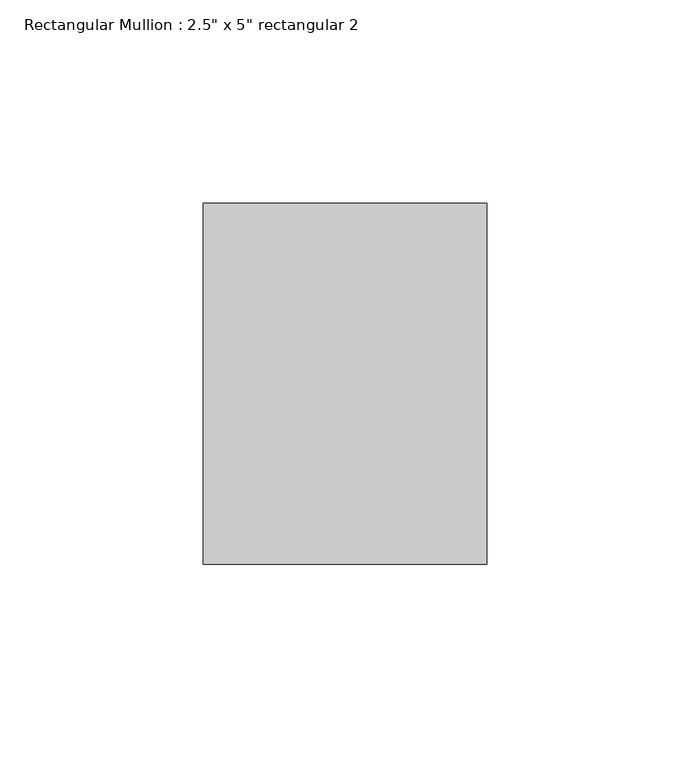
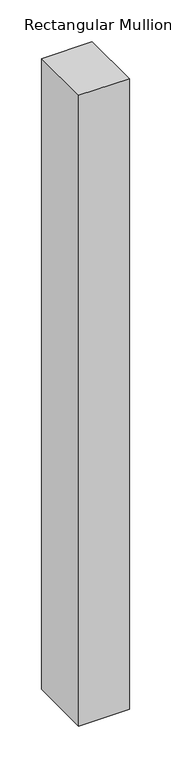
"""IFC4 building model written with IfcOpenShell, lengths in millimetres: member geometry."""

from ifc_helpers import new_model, si_unit, frame, origin, place, context, project, spatial, polyline, outline, extrude, source, transform, mapped, element, save


def member_2f45b62e(model_context):
    return source(origin(), model_context, "Body", "SweptSolid", [
        extrude(outline(polyline([(0.0, 44.45), (0.0, -44.45), (-69.85, -44.45), (-69.85, 44.45), (0.0, 44.45)])), frame((0.0, 0.0, -920.75), z_axis=(0.0, 0.0, 1.0), x_axis=(1.0, 0.0, 0.0)), (0.0, 0.0, 1.0), 920.75),
    ])


if __name__ == "__main__":
    model = new_model("IFC4")
    model_context = context("Model", 3, world=origin())
    ifc_project = project(units=[si_unit("LENGTHUNIT", "METRE", prefix="MILLI")], contexts=[model_context])
    site = spatial("IfcSite", under=ifc_project)
    building = spatial("IfcBuilding", under=site)
    placement = place(None, origin())
    member_shape = member_2f45b62e(model_context)
    element("IfcMember", 1, ObjectType="Rectangular Mullion : 2.5\" x 5\" rectangular 2", at=placement, inside=building, context=model_context, shape_type="MappedRepresentation", body=[
        mapped(member_shape, transform((0.0, 0.0, 0.0), x_axis=(1.0, 0.0, 0.0), y_axis=(0.0, 1.0, 0.0), z_axis=(0.0, 0.0, 1.0))),
    ])
    save(model, "model.ifc")
